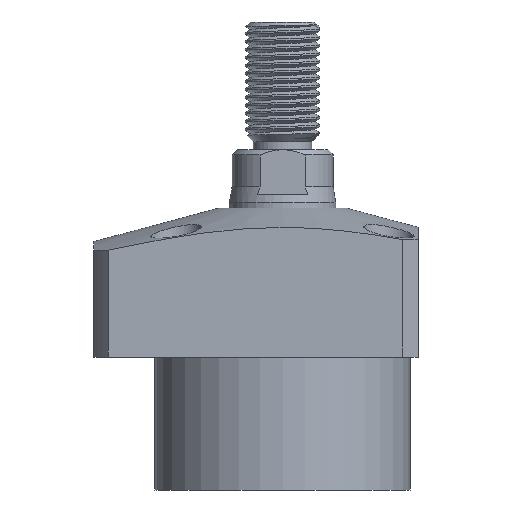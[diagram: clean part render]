
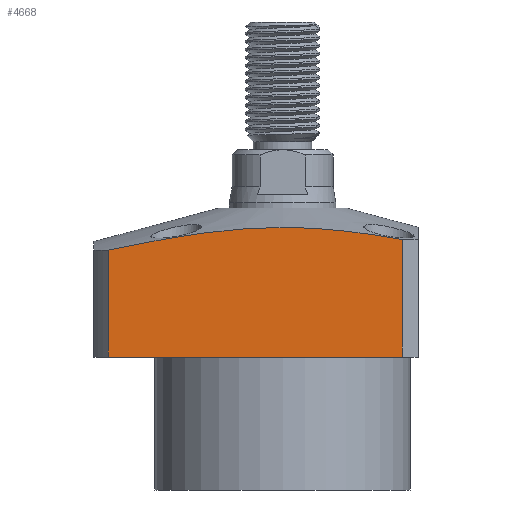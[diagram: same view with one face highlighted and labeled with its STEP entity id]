
A CAD part, front view. The second image highlights one B-rep face of the part: STEP entity #4668.
In plain terms, the highlighted planar face has unit normal (0, -1, 0).
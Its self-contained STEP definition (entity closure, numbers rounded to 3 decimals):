
#72 = CARTESIAN_POINT ( 'NONE',  ( 9.796, -25.5, 9.902 ) ) ;
#90 = CARTESIAN_POINT ( 'NONE',  ( -9.861, -25.5, 9.99 ) ) ;
#119 = ORIENTED_EDGE ( 'NONE', *, *, #978, .T. ) ;
#240 = LINE ( 'NONE', #981, #4013 ) ;
#257 = ORIENTED_EDGE ( 'NONE', *, *, #299, .F. ) ;
#283 = FACE_OUTER_BOUND ( 'NONE', #4890, .T. ) ;
#299 = EDGE_CURVE ( 'NONE', #1108, #3988, #959, .T. ) ;
#396 = ORIENTED_EDGE ( 'NONE', *, *, #4000, .T. ) ;
#411 = CARTESIAN_POINT ( 'NONE',  ( -32.741, -25.5, 6.095 ) ) ;
#442 = DIRECTION ( 'NONE',  ( -1., 0., 0. ) ) ;
#468 = LINE ( 'NONE', #2887, #3924 ) ;
#474 = CARTESIAN_POINT ( 'NONE',  ( -23.614, -25.5, 7.913 ) ) ;
#768 = AXIS2_PLACEMENT_3D ( 'NONE', #2841, #1281, #442 ) ;
#829 = CARTESIAN_POINT ( 'NONE',  ( -0.637, -25.5, 10.409 ) ) ;
#902 = CARTESIAN_POINT ( 'NONE',  ( 22.5, -25.5, -14. ) ) ;
#959 = B_SPLINE_CURVE_WITH_KNOTS ( 'NONE', 3,
 ( #411, #2857, #4069, #474, #4421, #4828, #90, #1646, #829, #4470, #2040, #72, #2451, #1633, #3208, #1664, #2873, #4845 ),
 .UNSPECIFIED., .F., .F.,
 ( 4, 2, 2, 2, 2, 2, 2, 2, 4 ),
 ( 0.029, 0.036, 0.043, 0.057, 0.064, 0.071, 0.074, 0.078, 0.085 ),
 .UNSPECIFIED. ) ;
#963 = DIRECTION ( 'NONE',  ( 0., 0., -1. ) ) ;
#978 = EDGE_CURVE ( 'NONE', #1108, #2742, #240, .T. ) ;
#981 = CARTESIAN_POINT ( 'NONE',  ( -32.741, -25.5, 14. ) ) ;
#1108 = VERTEX_POINT ( 'NONE', #4368 ) ;
#1117 = VECTOR ( 'NONE', #2827, 1000. ) ;
#1281 = DIRECTION ( 'NONE',  ( 0., 1., 0. ) ) ;
#1633 = CARTESIAN_POINT ( 'NONE',  ( 13.284, -25.5, 9.516 ) ) ;
#1646 = CARTESIAN_POINT ( 'NONE',  ( -2.947, -25.5, 10.364 ) ) ;
#1660 = DIRECTION ( 'NONE',  ( 1., 0., 0. ) ) ;
#1664 = CARTESIAN_POINT ( 'NONE',  ( 17.909, -25.5, 8.883 ) ) ;
#1922 = LINE ( 'NONE', #4427, #1117 ) ;
#2040 = CARTESIAN_POINT ( 'NONE',  ( 6.31, -25.5, 10.201 ) ) ;
#2451 = CARTESIAN_POINT ( 'NONE',  ( 10.959, -25.5, 9.784 ) ) ;
#2461 = VERTEX_POINT ( 'NONE', #902 ) ;
#2742 = VERTEX_POINT ( 'NONE', #4658 ) ;
#2827 = DIRECTION ( 'NONE',  ( 0., 0., 1. ) ) ;
#2841 = CARTESIAN_POINT ( 'NONE',  ( -32.741, -25.5, 14. ) ) ;
#2857 = CARTESIAN_POINT ( 'NONE',  ( -30.466, -25.5, 6.577 ) ) ;
#2873 = CARTESIAN_POINT ( 'NONE',  ( 20.208, -25.5, 8.509 ) ) ;
#2887 = CARTESIAN_POINT ( 'NONE',  ( -32.741, -25.5, -14. ) ) ;
#3194 = PLANE ( 'NONE',  #768 ) ;
#3208 = CARTESIAN_POINT ( 'NONE',  ( 14.442, -25.5, 9.367 ) ) ;
#3924 = VECTOR ( 'NONE', #1660, 1000. ) ;
#3988 = VERTEX_POINT ( 'NONE', #4788 ) ;
#4000 = EDGE_CURVE ( 'NONE', #2461, #3988, #1922, .T. ) ;
#4013 = VECTOR ( 'NONE', #963, 1000. ) ;
#4069 = CARTESIAN_POINT ( 'NONE',  ( -28.186, -25.5, 7.04 ) ) ;
#4368 = CARTESIAN_POINT ( 'NONE',  ( -32.741, -25.5, 6.095 ) ) ;
#4421 = CARTESIAN_POINT ( 'NONE',  ( -21.325, -25.5, 8.322 ) ) ;
#4427 = CARTESIAN_POINT ( 'NONE',  ( 22.5, -25.5, 14. ) ) ;
#4470 = CARTESIAN_POINT ( 'NONE',  ( 3.991, -25.5, 10.327 ) ) ;
#4658 = CARTESIAN_POINT ( 'NONE',  ( -32.741, -25.5, -14. ) ) ;
#4668 = ADVANCED_FACE ( 'NONE', ( #283 ), #3194, .F. ) ;
#4788 = CARTESIAN_POINT ( 'NONE',  ( 22.5, -25.5, 8.103 ) ) ;
#4828 = CARTESIAN_POINT ( 'NONE',  ( -14.452, -25.5, 9.423 ) ) ;
#4845 = CARTESIAN_POINT ( 'NONE',  ( 22.5, -25.5, 8.103 ) ) ;
#4890 = EDGE_LOOP ( 'NONE', ( #4977, #396, #257, #119 ) ) ;
#4977 = ORIENTED_EDGE ( 'NONE', *, *, #5170, .T. ) ;
#5170 = EDGE_CURVE ( 'NONE', #2742, #2461, #468, .T. ) ;
